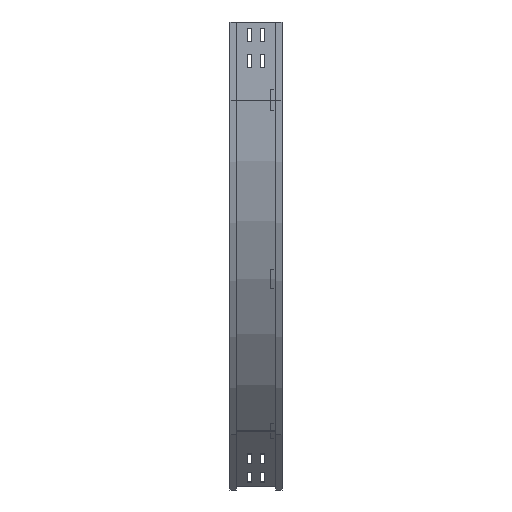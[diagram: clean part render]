
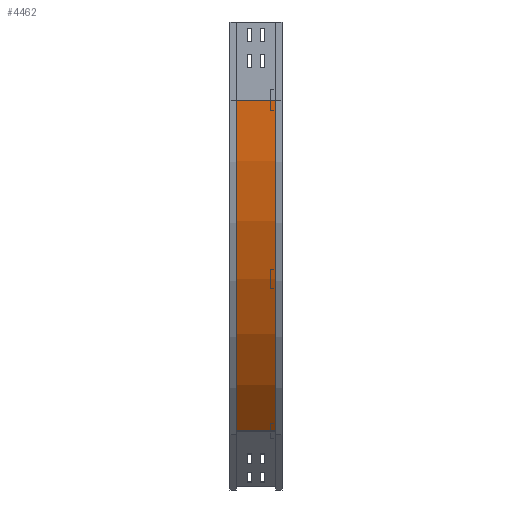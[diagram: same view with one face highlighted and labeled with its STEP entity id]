
A CAD part, left-side view. The second image highlights one B-rep face of the part: STEP entity #4462.
In plain terms, the highlighted cylindrical face has radius 900 mm (diameter 1800 mm), a partial arc.
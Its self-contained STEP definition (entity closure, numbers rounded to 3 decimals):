
#87 = DIRECTION ( 'NONE',  ( 0., -1., 0. ) ) ;
#136 = DIRECTION ( 'NONE',  ( 0., 0., -1. ) ) ;
#145 = EDGE_LOOP ( 'NONE', ( #4260, #1161, #2610, #551 ) ) ;
#334 = AXIS2_PLACEMENT_3D ( 'NONE', #2142, #2753, #3513 ) ;
#478 = CIRCLE ( 'NONE', #334, 900. ) ;
#482 = FACE_OUTER_BOUND ( 'NONE', #145, .T. ) ;
#551 = ORIENTED_EDGE ( 'NONE', *, *, #1195, .T. ) ;
#654 = LINE ( 'NONE', #2473, #3801 ) ;
#823 = CARTESIAN_POINT ( 'NONE',  ( 909., 0., -150. ) ) ;
#1003 = CARTESIAN_POINT ( 'NONE',  ( 9., 88., -150. ) ) ;
#1032 = DIRECTION ( 'NONE',  ( -1., 0., 0. ) ) ;
#1102 = VERTEX_POINT ( 'NONE', #2353 ) ;
#1160 = AXIS2_PLACEMENT_3D ( 'NONE', #4129, #3114, #1032 ) ;
#1161 = ORIENTED_EDGE ( 'NONE', *, *, #1345, .F. ) ;
#1183 = DIRECTION ( 'NONE',  ( 0., -1., 0. ) ) ;
#1195 = EDGE_CURVE ( 'NONE', #1102, #3305, #654, .T. ) ;
#1250 = AXIS2_PLACEMENT_3D ( 'NONE', #823, #87, #136 ) ;
#1345 = EDGE_CURVE ( 'NONE', #3899, #4144, #3932, .T. ) ;
#2003 = EDGE_CURVE ( 'NONE', #4144, #3305, #478, .T. ) ;
#2022 = CARTESIAN_POINT ( 'NONE',  ( 272.604, 12., -786.396 ) ) ;
#2142 = CARTESIAN_POINT ( 'NONE',  ( 909., 12., -150. ) ) ;
#2221 = VECTOR ( 'NONE', #1183, 1000. ) ;
#2285 = CARTESIAN_POINT ( 'NONE',  ( 9., 12., -150. ) ) ;
#2353 = CARTESIAN_POINT ( 'NONE',  ( 272.604, 88., -786.396 ) ) ;
#2473 = CARTESIAN_POINT ( 'NONE',  ( 272.604, 12., -786.396 ) ) ;
#2610 = ORIENTED_EDGE ( 'NONE', *, *, #3280, .T. ) ;
#2753 = DIRECTION ( 'NONE',  ( 0., -1., 0. ) ) ;
#3106 = CARTESIAN_POINT ( 'NONE',  ( 9., 12., -150. ) ) ;
#3114 = DIRECTION ( 'NONE',  ( 0., -1., 0. ) ) ;
#3161 = CYLINDRICAL_SURFACE ( 'NONE', #1250, 900. ) ;
#3280 = EDGE_CURVE ( 'NONE', #3899, #1102, #3968, .T. ) ;
#3305 = VERTEX_POINT ( 'NONE', #2022 ) ;
#3513 = DIRECTION ( 'NONE',  ( -1., 0., 0. ) ) ;
#3801 = VECTOR ( 'NONE', #4164, 1000. ) ;
#3899 = VERTEX_POINT ( 'NONE', #1003 ) ;
#3932 = LINE ( 'NONE', #2285, #2221 ) ;
#3968 = CIRCLE ( 'NONE', #1160, 900. ) ;
#4129 = CARTESIAN_POINT ( 'NONE',  ( 909., 88., -150. ) ) ;
#4144 = VERTEX_POINT ( 'NONE', #3106 ) ;
#4164 = DIRECTION ( 'NONE',  ( 0., -1., 0. ) ) ;
#4260 = ORIENTED_EDGE ( 'NONE', *, *, #2003, .F. ) ;
#4462 = ADVANCED_FACE ( 'NONE', ( #482 ), #3161, .T. ) ;
